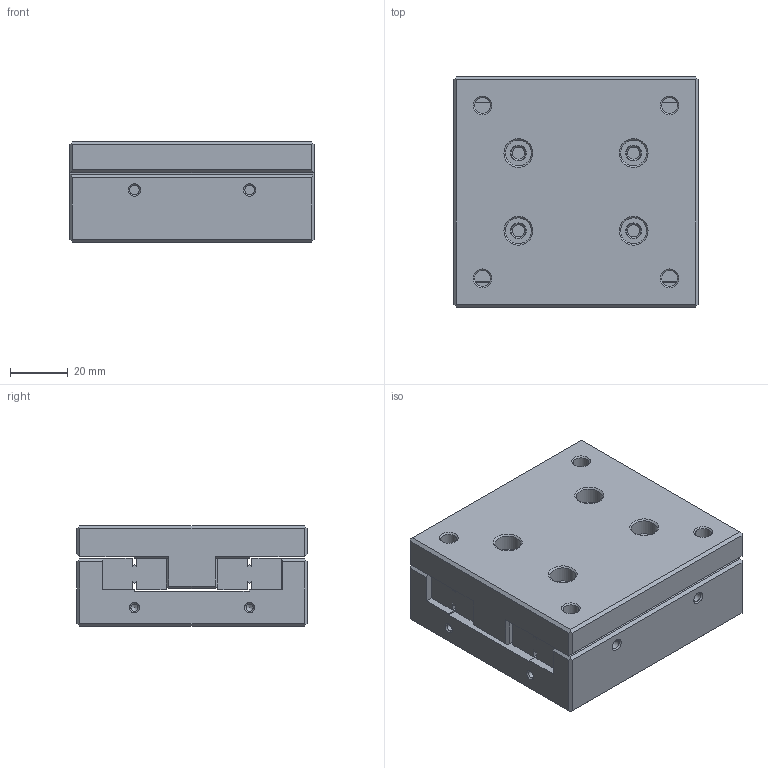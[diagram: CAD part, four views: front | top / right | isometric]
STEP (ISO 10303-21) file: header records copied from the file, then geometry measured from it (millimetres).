
FILE_DESCRIPTION(/* description */ (''),/* implementation_level */ '2;1');
FILE_NAME(/* name */ 'cru4085_stp.stp',/* time_stamp */ '2017-02-28T09:09:05+08:00',/* author */ (''),/* organization */ (''),/* preprocessor_version */ 'ST-DEVELOPER v15',/* originating_system */ 'SIEMENS PLM Software NX 8.5',/* authorisation */ '');
FILE_SCHEMA (('AUTOMOTIVE_DESIGN { 1 0 10303 214 3 1 1 1 }'));
Length unit declared in the file: millimetre
Products named in the file (4): CRU4125-02; CRU4125-GV4120; CRU4125-01; cru4085_stp
Assembly tree (4 placements, depth 2):
  cru4085_stp
    CRU4125-01
    CRU4125-GV4120  x2
    CRU4125-02
Bounding box: 85 x 80 x 35 mm (x, y, z)
Volume: 216452.1 mm3; surface area: 59787.6 mm2
Topology: 4 solids, 4 shells, 247 faces, 646 edges, 427 vertices
Faces by surface type: plane 132, cone 62, cylinder 53
Full cylindrical faces by diameter (mm): 2.5 x4, 3.3 x3, 4.2 x12, 5.5 x12, 8 x8, 9 x12
Entity records: 5728 total; most frequent: DIRECTION 978, CARTESIAN_POINT 942, ORIENTED_EDGE 808, EDGE_CURVE 404, EDGE_LOOP 366, AXIS2_PLACEMENT_3D 360, VERTEX_POINT 314, FACE_BOUND 288
